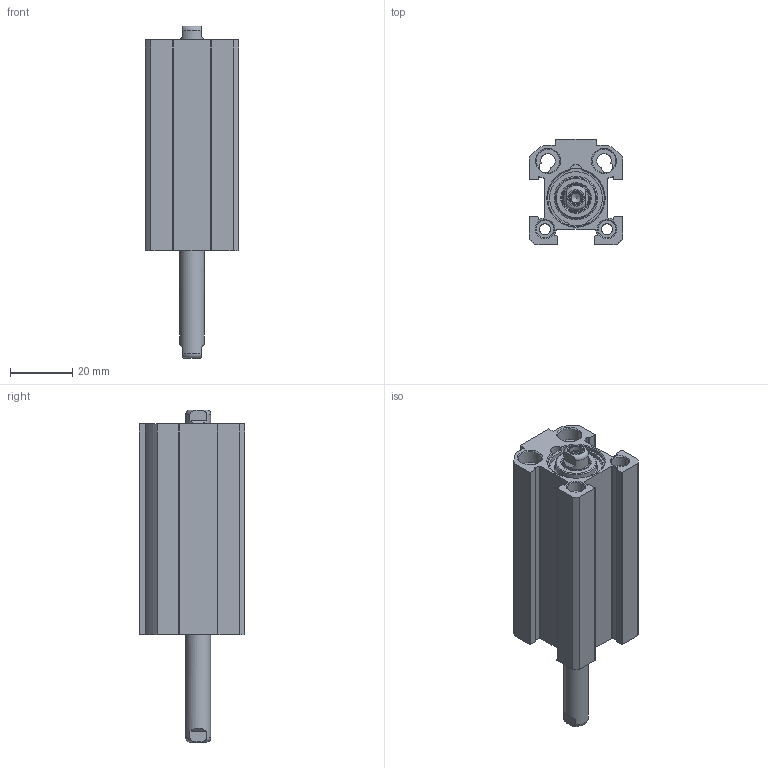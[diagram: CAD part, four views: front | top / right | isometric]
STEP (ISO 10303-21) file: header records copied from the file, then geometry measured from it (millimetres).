
FILE_DESCRIPTION(/* description */ ('Unknown'),/* implementation_level */ '2;1');
FILE_NAME(/* name */ 'FBN 16_30',/* time_stamp */ '2026-04-29T08:58:30+02:00',/* author */ ('Unknown'),/* organization */ ('Unknown'),/* preprocessor_version */ 'ST-DEVELOPER v18.102',/* originating_system */ 'Solid Edge',/* authorisation */ 'Unknown');
FILE_SCHEMA (('AUTOMOTIVE_DESIGN {1 0 10303 214 3 1 1}'));
Length unit declared in the file: millimetre
Products named in the file (5): FBN 16_30; Kolbenstange; Profilrohr; Kit_1; Kit_2
Assembly tree (5 placements, depth 2):
  FBN 16_30
    Kolbenstange  x2
    Profilrohr
    Kit_1
    Kit_2
Bounding box: 30 x 34 x 107 mm (x, y, z)
Volume: 43634.5 mm3; surface area: 26078.7 mm2
Topology: 7 solids, 7 shells, 229 faces, 549 edges, 356 vertices
Faces by surface type: plane 90, cylinder 83, cone 42, torus 14
Full cylindrical faces by diameter (mm): 1.3 x2, 3.242 x4, 3.7 x2, 4.134 x4, 4.25 x2, 5.6 x4, 8 x2, 8.42 x2, 9.2 x2, 11.36 x2, 11.5 x2, 13.2 x2, 16 x3, 17.9 x4, 19 x2
Entity records: 6923 total; most frequent: CARTESIAN_POINT 1107, DIRECTION 1040, ORIENTED_EDGE 818, AXIS2_PLACEMENT_3D 437, EDGE_CURVE 409, FACE_BOUND 327, EDGE_LOOP 326, VERTEX_POINT 308
